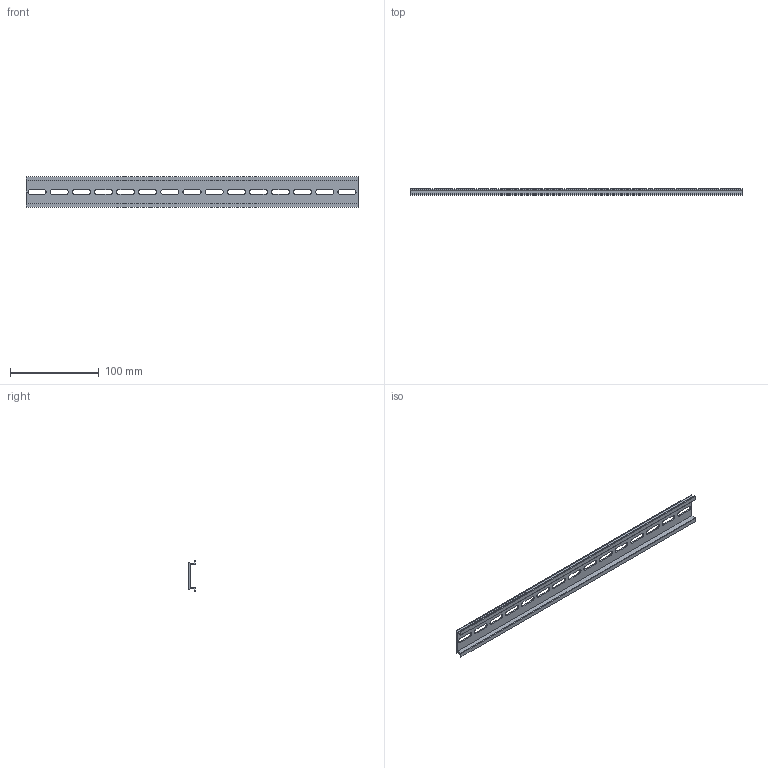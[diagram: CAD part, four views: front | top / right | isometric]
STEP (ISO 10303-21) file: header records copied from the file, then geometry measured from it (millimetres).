
FILE_DESCRIPTION( (''), '2;1');
FILE_NAME ('CVICAD02.15516.DIN-RAIL375_7419.stp','2020-09-01T14:18:31',(''),(''),'spGate 12.6.6','','');
FILE_SCHEMA (('AUTOMOTIVE_DESIGN'));
Length unit declared in the file: millimetre
Bounding box: 375 x 7.5 x 35 mm (x, y, z)
Volume: 26475 mm3; surface area: 35415.8 mm2
Topology: 1 solids, 1 shells, 80 faces, 234 edges, 156 vertices
Faces by surface type: plane 48, cylinder 32
Entity records: 4549 total; most frequent: CARTESIAN_POINT 470, ORIENTED_EDGE 468, DIRECTION 458, COLOUR_RGB 315, PRESENTATION_STYLE_ASSIGNMENT 315, STYLED_ITEM 315, EDGE_CURVE 234, DRAUGHTING_PRE_DEFINED_CURVE_FONT 234
